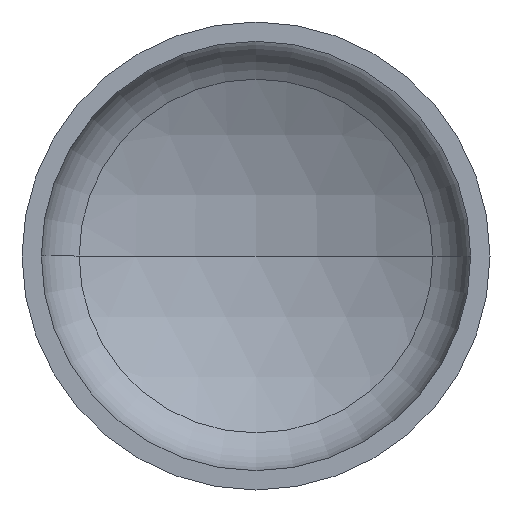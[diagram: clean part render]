
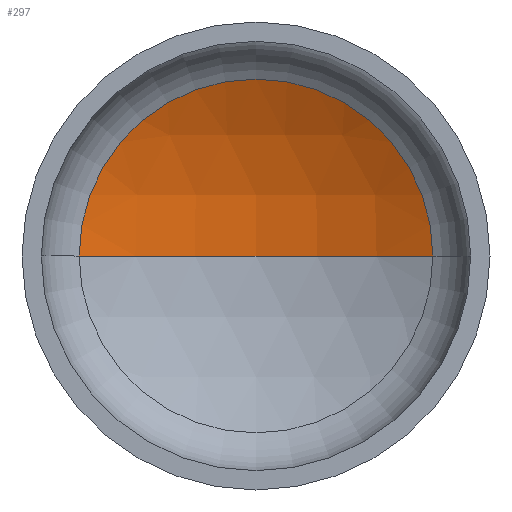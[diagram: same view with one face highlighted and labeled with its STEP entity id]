
A CAD part, front view. The second image highlights one B-rep face of the part: STEP entity #297.
In plain terms, the highlighted spherical face has radius 1280 mm.
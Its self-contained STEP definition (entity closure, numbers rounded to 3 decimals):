
#3 = VERTEX_POINT ( 'NONE', #190 ) ;
#9 = AXIS2_PLACEMENT_3D ( 'NONE', #266, #41, #200 ) ;
#10 = AXIS2_PLACEMENT_3D ( 'NONE', #401, #268, #351 ) ;
#12 = AXIS2_PLACEMENT_3D ( 'NONE', #165, #25, #104 ) ;
#16 = AXIS2_PLACEMENT_3D ( 'NONE', #391, #95, #225 ) ;
#25 = DIRECTION ( 'NONE',  ( 0., -1., 0. ) ) ;
#39 = ORIENTED_EDGE ( 'NONE', *, *, #331, .T. ) ;
#41 = DIRECTION ( 'NONE',  ( 0., 0., 1. ) ) ;
#53 = ORIENTED_EDGE ( 'NONE', *, *, #334, .T. ) ;
#95 = DIRECTION ( 'NONE',  ( 0., 0., -1. ) ) ;
#102 = EDGE_LOOP ( 'NONE', ( #111, #53, #39 ) ) ;
#104 = DIRECTION ( 'NONE',  ( 1., 0., 0. ) ) ;
#111 = ORIENTED_EDGE ( 'NONE', *, *, #337, .F. ) ;
#119 = VERTEX_POINT ( 'NONE', #304 ) ;
#125 = VERTEX_POINT ( 'NONE', #224 ) ;
#165 = CARTESIAN_POINT ( 'NONE',  ( 0., 335.931, 0. ) ) ;
#169 = FACE_OUTER_BOUND ( 'NONE', #102, .T. ) ;
#190 = CARTESIAN_POINT ( 'NONE',  ( -604.754, 335.931, 0. ) ) ;
#200 = DIRECTION ( 'NONE',  ( 1., 0., 0. ) ) ;
#224 = CARTESIAN_POINT ( 'NONE',  ( 0., 487.803, 0. ) ) ;
#225 = DIRECTION ( 'NONE',  ( -1., 0., 0. ) ) ;
#228 = CIRCLE ( 'NONE', #12, 604.754 ) ;
#266 = CARTESIAN_POINT ( 'NONE',  ( 0., -792.197, 0. ) ) ;
#268 = DIRECTION ( 'NONE',  ( 0., 0., -1. ) ) ;
#279 = CIRCLE ( 'NONE', #10, 1280. ) ;
#297 = ADVANCED_FACE ( 'NONE', ( #169 ), #400, .F. ) ;
#304 = CARTESIAN_POINT ( 'NONE',  ( 604.754, 335.931, 0. ) ) ;
#331 = EDGE_CURVE ( 'NONE', #119, #3, #228, .T. ) ;
#334 = EDGE_CURVE ( 'NONE', #125, #119, #279, .T. ) ;
#337 = EDGE_CURVE ( 'NONE', #125, #3, #385, .T. ) ;
#351 = DIRECTION ( 'NONE',  ( -1., 0., 0. ) ) ;
#385 = CIRCLE ( 'NONE', #9, 1280. ) ;
#391 = CARTESIAN_POINT ( 'NONE',  ( 0., -792.197, 0. ) ) ;
#400 = SPHERICAL_SURFACE ( 'NONE', #16, 1280. ) ;
#401 = CARTESIAN_POINT ( 'NONE',  ( 0., -792.197, 0. ) ) ;
